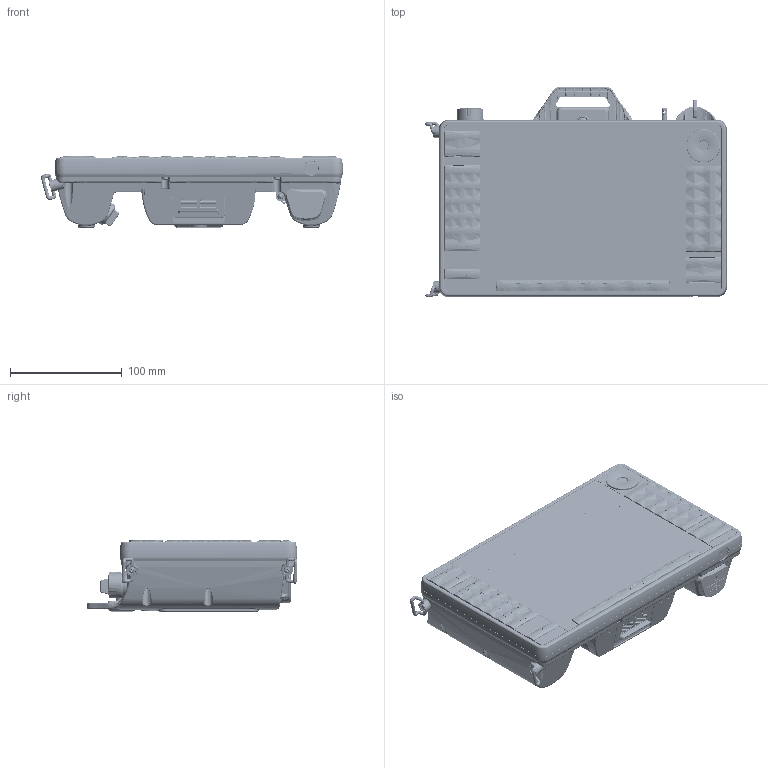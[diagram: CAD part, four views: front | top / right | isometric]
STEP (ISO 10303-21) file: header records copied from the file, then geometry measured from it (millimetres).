
FILE_DESCRIPTION (( 'STEP AP214' ), '1' );
FILE_NAME ('Assieme.STEP', '2026-01-15T11:48:48', ( '' ), ( '' ), 'SwSTEP 2.0', 'SolidWorks 2025', '' );
FILE_SCHEMA (( 'AUTOMOTIVE_DESIGN' ));
Products named in the file (1): Assieme
Bounding box: 270 x 188.72 x 64.76 mm (x, y, z)
Volume: 1897982.5 mm3; surface area: 213646.2 mm2
Topology: 3 solids, 63 shells, 9114 faces, 22500 edges, 13467 vertices
Faces by surface type: bspline 3022, plane 2702, cylinder 2012, torus 604, cone 390, sphere 384
Entity records: 356360 total; most frequent: CARTESIAN_POINT 168581, ORIENTED_EDGE 44422, DIRECTION 32054, EDGE_CURVE 22211, VERTEX_POINT 13453, AXIS2_PLACEMENT_3D 12062, EDGE_LOOP 9426, ADVANCED_FACE 9114
